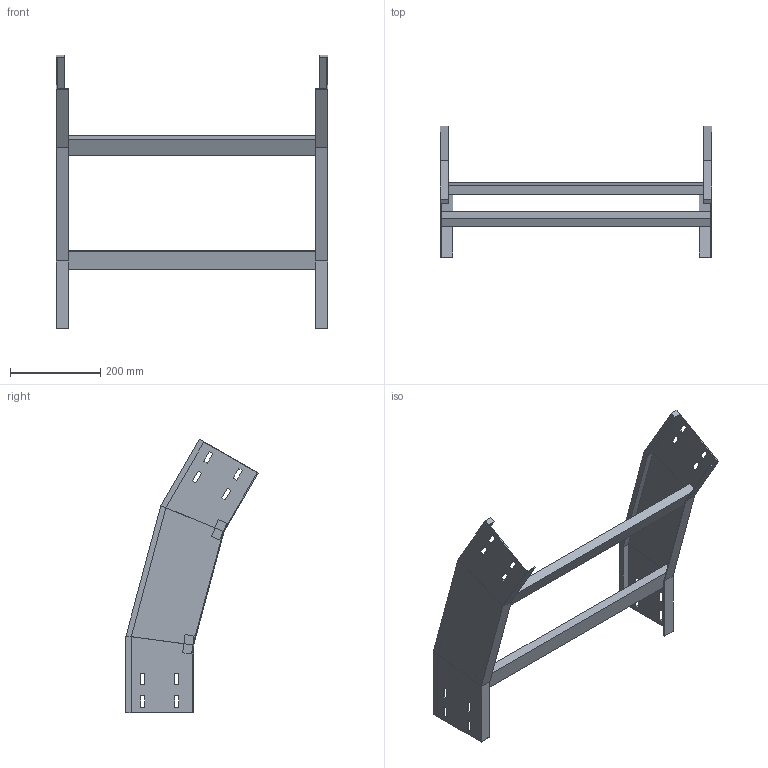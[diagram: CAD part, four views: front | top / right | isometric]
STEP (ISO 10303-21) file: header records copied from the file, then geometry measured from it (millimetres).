
FILE_DESCRIPTION (( 'STEP AP214' ), '1' );
FILE_NAME ('35J5F600.step', '2025-02-21T16:21:39', ( '' ), ( '' ), 'SwSTEP 2.0', 'SolidWorks 2023', '' );
FILE_SCHEMA (( 'AUTOMOTIVE_DESIGN' ));
Length unit declared in the file: millimetre
Products named in the file (3): 35J5F600; LONGH.DISCESA_30°_H150_R500; TRAVERSINO_600
Assembly tree (4 placements, depth 2):
  35J5F600
    LONGH.DISCESA_30°_H150_R500  x2
    TRAVERSINO_600  x2
Bounding box: 600 x 292.03 x 605.08 mm (x, y, z)
Volume: 1617145.5 mm3; surface area: 605083.3 mm2
Topology: 4 solids, 4 shells, 128 faces, 328 edges, 208 vertices
Faces by surface type: plane 128
Entity records: 2016 total; most frequent: CARTESIAN_POINT 339, ORIENTED_EDGE 328, DIRECTION 306, VECTOR 164, EDGE_CURVE 164, LINE 164, VERTEX_POINT 104, EDGE_LOOP 80
